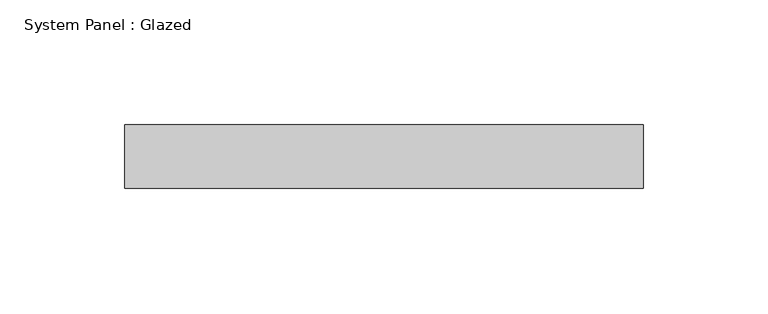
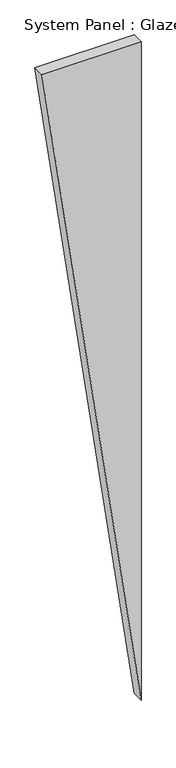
"""IFC4 building model written with IfcOpenShell, lengths in millimetres: plate geometry, System Panel : Glazed."""

from ifc_helpers import new_model, si_unit, frame, origin, place, context, project, spatial, polyline, outline, extrude, source, transform, mapped, element, save


def system_panel_glazed_bfdc5fdd(model_context):
    return source(origin(), model_context, "Body", "SweptSolid", [
        extrude(outline(polyline([(1458.2427621, -103.8401634), (0.0, 103.8401634), (1458.2427621, 103.8401634), (1458.2427621, -103.8401634)])), frame((0.0, 19.05, 0.0), z_axis=(0.0, 1.0, 0.0), x_axis=(0.0, 0.0, 1.0)), (0.0, 0.0, 1.0), 25.4),
    ])


if __name__ == "__main__":
    model = new_model("IFC4")
    model_context = context("Model", 3, world=origin())
    ifc_project = project(units=[si_unit("LENGTHUNIT", "METRE", prefix="MILLI")], contexts=[model_context])
    site = spatial("IfcSite", under=ifc_project)
    building = spatial("IfcBuilding", under=site)
    placement = place(None, origin())
    system_panel_glazed_shape = system_panel_glazed_bfdc5fdd(model_context)
    element("IfcPlate", 1, ObjectType="System Panel : Glazed", at=placement, inside=building, context=model_context, shape_type="MappedRepresentation", body=[
        mapped(system_panel_glazed_shape, transform((0.0, 0.0, 0.0), x_axis=(1.0, 0.0, 0.0), y_axis=(0.0, 1.0, 0.0), z_axis=(0.0, 0.0, 1.0))),
    ])
    save(model, "model.ifc")
